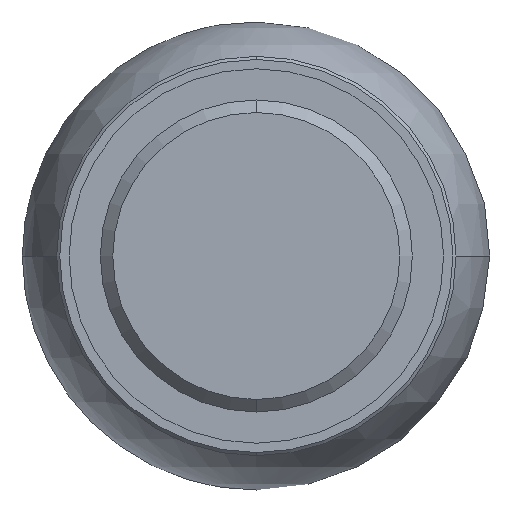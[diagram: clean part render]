
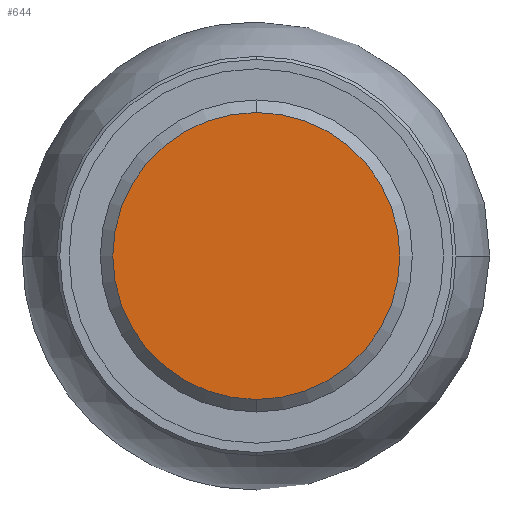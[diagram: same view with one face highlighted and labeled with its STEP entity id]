
A CAD part, left-side view. The second image highlights one B-rep face of the part: STEP entity #644.
In plain terms, the highlighted planar face has unit normal (-1, 0, 0).
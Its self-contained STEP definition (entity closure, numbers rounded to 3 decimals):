
#26 = CARTESIAN_POINT ( 'NONE',  ( -136.5, 0., 0. ) ) ;
#74 = DIRECTION ( 'NONE',  ( 0., 0., 1. ) ) ;
#79 = DIRECTION ( 'NONE',  ( -1., 0., 0. ) ) ;
#81 = EDGE_LOOP ( 'NONE', ( #194, #383 ) ) ;
#93 = AXIS2_PLACEMENT_3D ( 'NONE', #26, #79, #233 ) ;
#94 = DIRECTION ( 'NONE',  ( 1., 0., 0. ) ) ;
#123 = DIRECTION ( 'NONE',  ( -1., 0., 0. ) ) ;
#160 = EDGE_CURVE ( 'NONE', #606, #452, #418, .T. ) ;
#194 = ORIENTED_EDGE ( 'NONE', *, *, #476, .T. ) ;
#208 = CARTESIAN_POINT ( 'NONE',  ( -136.5, 0., -23. ) ) ;
#231 = AXIS2_PLACEMENT_3D ( 'NONE', #425, #123, #74 ) ;
#233 = DIRECTION ( 'NONE',  ( 0., 0., 1. ) ) ;
#250 = CARTESIAN_POINT ( 'NONE',  ( -136.5, 0., 0. ) ) ;
#360 = PLANE ( 'NONE',  #414 ) ;
#383 = ORIENTED_EDGE ( 'NONE', *, *, #160, .T. ) ;
#396 = FACE_OUTER_BOUND ( 'NONE', #81, .T. ) ;
#400 = DIRECTION ( 'NONE',  ( 0., 0., -1. ) ) ;
#414 = AXIS2_PLACEMENT_3D ( 'NONE', #250, #94, #400 ) ;
#418 = CIRCLE ( 'NONE', #93, 23. ) ;
#425 = CARTESIAN_POINT ( 'NONE',  ( -136.5, 0., 0. ) ) ;
#439 = CIRCLE ( 'NONE', #231, 23. ) ;
#452 = VERTEX_POINT ( 'NONE', #208 ) ;
#476 = EDGE_CURVE ( 'NONE', #452, #606, #439, .T. ) ;
#483 = CARTESIAN_POINT ( 'NONE',  ( -136.5, 0., 23. ) ) ;
#606 = VERTEX_POINT ( 'NONE', #483 ) ;
#644 = ADVANCED_FACE ( 'NONE', ( #396 ), #360, .F. ) ;
